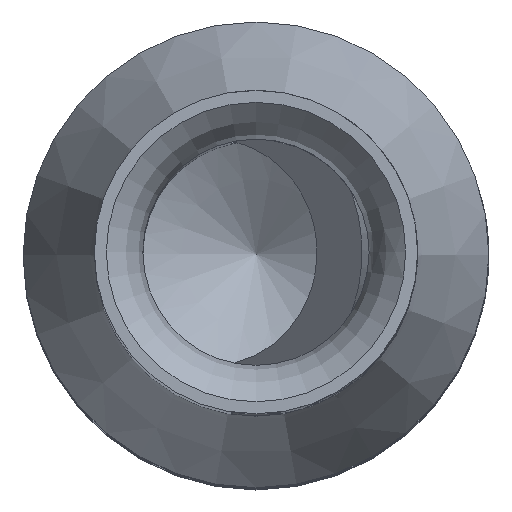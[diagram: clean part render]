
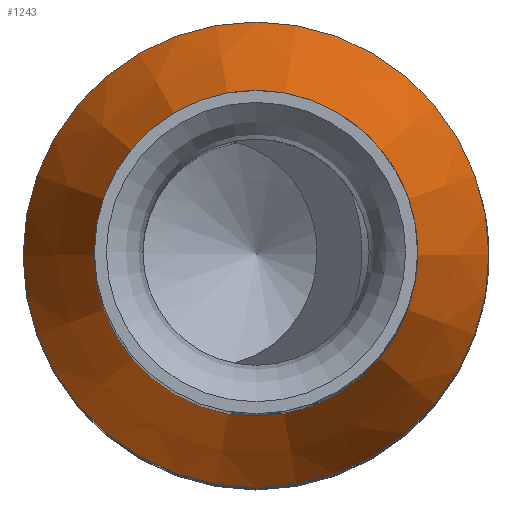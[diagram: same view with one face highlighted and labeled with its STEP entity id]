
A CAD part, top view. The second image highlights one B-rep face of the part: STEP entity #1243.
In plain terms, the highlighted conical face has half-angle 21.918 degrees and reference radius 1.75 mm.
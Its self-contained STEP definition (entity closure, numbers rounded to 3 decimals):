
#1135=CONICAL_SURFACE('',#3401,1.75,21.918);
#1243=ADVANCED_FACE('',(#1448,#1449),#1135,.T.);
#1448=FACE_BOUND('',#1518,.T.);
#1449=FACE_BOUND('',#1519,.T.);
#1518=EDGE_LOOP('',(#2145));
#1519=EDGE_LOOP('',(#2146));
#2145=ORIENTED_EDGE('',*,*,#3000,.T.);
#2146=ORIENTED_EDGE('',*,*,#3001,.F.);
#2777=VERTEX_POINT('',#4793);
#2778=VERTEX_POINT('',#4795);
#3000=EDGE_CURVE('',#2777,#2777,#3280,.T.);
#3001=EDGE_CURVE('',#2778,#2778,#3281,.T.);
#3280=CIRCLE('',#3399,1.);
#3281=CIRCLE('',#3400,1.75);
#3399=AXIS2_PLACEMENT_3D('',#4792,#3750,#3751);
#3400=AXIS2_PLACEMENT_3D('',#4794,#3752,#3753);
#3401=AXIS2_PLACEMENT_3D('',#4796,#3754,#3755);
#3750=DIRECTION('',(0.,0.,-1.));
#3751=DIRECTION('',(-1.,0.,0.));
#3752=DIRECTION('',(0.,0.,-1.));
#3753=DIRECTION('',(-1.,0.,0.));
#3754=DIRECTION('',(0.,0.,-1.));
#3755=DIRECTION('',(-1.,0.,0.));
#4792=CARTESIAN_POINT('',(0.,0.,11.55));
#4793=CARTESIAN_POINT('',(-1.,0.,11.55));
#4794=CARTESIAN_POINT('',(0.,0.,9.686));
#4795=CARTESIAN_POINT('',(-1.75,0.,9.686));
#4796=CARTESIAN_POINT('',(0.,0.,9.686));
